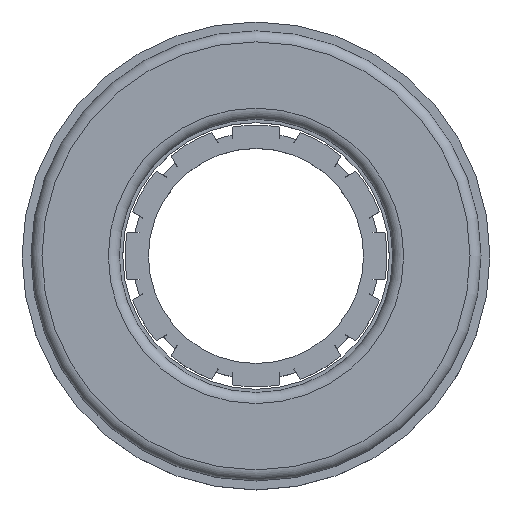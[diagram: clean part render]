
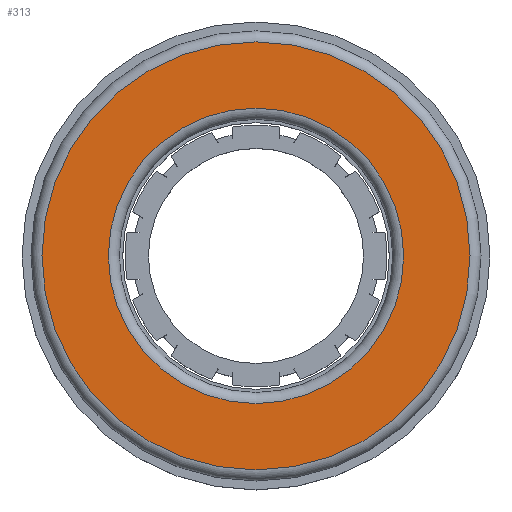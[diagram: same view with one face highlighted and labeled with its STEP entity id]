
A CAD part, top view. The second image highlights one B-rep face of the part: STEP entity #313.
In plain terms, the highlighted planar face has unit normal (0, 0, 1).
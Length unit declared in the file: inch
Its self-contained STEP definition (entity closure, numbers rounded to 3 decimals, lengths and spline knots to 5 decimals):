
#279=CARTESIAN_POINT('',(0.0,1.57815,0.75));
#280=VERTEX_POINT('',#279);
#281=CARTESIAN_POINT('',(0.0,0.0,0.75));
#282=DIRECTION('',(0.0,0.0,-1.0));
#283=DIRECTION('',(0.0,1.0,0.0));
#284=AXIS2_PLACEMENT_3D('',#281,#282,#283);
#285=CIRCLE('',#284,1.57815);
#286=EDGE_CURVE('',#280,#280,#285,.T.);
#294=CARTESIAN_POINT('',(0.0,1.93248,0.75));
#295=DIRECTION('',(0.0,0.0,1.0));
#296=DIRECTION('',(1.0,0.0,0.0));
#297=AXIS2_PLACEMENT_3D('',#294,#295,#296);
#298=PLANE('',#297);
#299=CARTESIAN_POINT('',(0.0,2.28681,0.75));
#300=VERTEX_POINT('',#299);
#301=CARTESIAN_POINT('',(0.0,0.0,0.75));
#302=DIRECTION('',(0.0,0.0,-1.0));
#303=DIRECTION('',(0.0,1.0,0.0));
#304=AXIS2_PLACEMENT_3D('',#301,#302,#303);
#305=CIRCLE('',#304,2.28681);
#306=EDGE_CURVE('',#300,#300,#305,.T.);
#307=ORIENTED_EDGE('',*,*,#306,.F.);
#308=EDGE_LOOP('',(#307));
#309=FACE_OUTER_BOUND('',#308,.T.);
#310=ORIENTED_EDGE('',*,*,#286,.T.);
#311=EDGE_LOOP('',(#310));
#312=FACE_BOUND('',#311,.T.);
#313=ADVANCED_FACE('',(#309,#312),#298,.T.);
